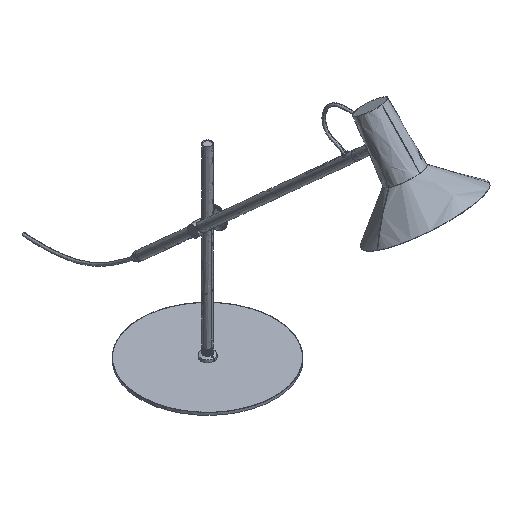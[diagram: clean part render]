
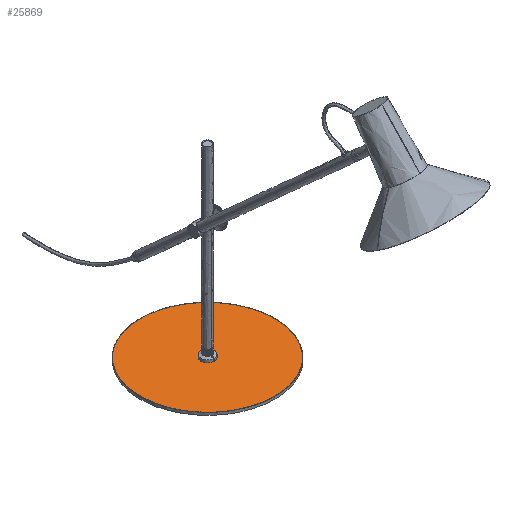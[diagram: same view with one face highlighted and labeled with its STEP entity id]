
A CAD part, isometric view. The second image highlights one B-rep face of the part: STEP entity #25869.
In plain terms, the highlighted free-form (B-spline) face has degree [1, 1] with [2, 2] control points.
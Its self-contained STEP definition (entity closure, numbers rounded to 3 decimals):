
#75 = VERTEX_POINT ( 'NONE', #10144 ) ;
#507 = CARTESIAN_POINT ( 'NONE',  ( 396.577, 3943.91, -700.101 ) ) ;
#652 = VERTEX_POINT ( 'NONE', #12375 ) ;
#1141 = CARTESIAN_POINT ( 'NONE',  ( 394.327, 3946.16, -700.101 ) ) ;
#1953 = EDGE_CURVE ( 'NONE', #14120, #75, #32282, .T. ) ;
#2541 = CARTESIAN_POINT ( 'NONE',  ( 502.407, 3890.51, -700.101 ) ) ;
#2887 = CARTESIAN_POINT ( 'NONE',  ( 502.407, 4015.31, -700.101 ) ) ;
#3250 = VERTEX_POINT ( 'NONE', #1141 ) ;
#3641 = ORIENTED_EDGE ( 'NONE', *, *, #30623, .F. ) ;
#3683 =( BOUNDED_CURVE ( )  B_SPLINE_CURVE ( 2, ( #21739, #24795, #14148 ),
 .UNSPECIFIED., .F., .F. ) 
 B_SPLINE_CURVE_WITH_KNOTS ( ( 3, 3 ),
 ( -130.69, 0. ),
 .UNSPECIFIED. ) 
 CURVE ( )  GEOMETRIC_REPRESENTATION_ITEM ( )  RATIONAL_B_SPLINE_CURVE ( ( 1., 0.866, 1. ) ) 
 REPRESENTATION_ITEM ( '' )  );
#3720 = EDGE_CURVE ( 'NONE', #19972, #652, #28686, .T. ) ;
#3908 =( BOUNDED_CURVE ( )  B_SPLINE_CURVE ( 2, ( #32681, #13621, #24808, #26770, #35369 ),
 .UNSPECIFIED., .F., .F. ) 
 B_SPLINE_CURVE_WITH_KNOTS ( ( 3, 2, 3 ),
 ( 0., 3.534, 7.069 ),
 .UNSPECIFIED. ) 
 CURVE ( )  GEOMETRIC_REPRESENTATION_ITEM ( )  RATIONAL_B_SPLINE_CURVE ( ( 1., 0.707, 1., 0.707, 1. ) ) 
 REPRESENTATION_ITEM ( '' )  );
#4145 = CARTESIAN_POINT ( 'NONE',  ( 392.077, 3959.66, -700.101 ) ) ;
#5836 = ORIENTED_EDGE ( 'NONE', *, *, #23672, .F. ) ;
#5874 = CARTESIAN_POINT ( 'NONE',  ( 466.38, 3828.11, -700.101 ) ) ;
#6155 =( BOUNDED_CURVE ( )  B_SPLINE_CURVE ( 2, ( #8406, #32805, #507, #30108, #21882 ),
 .UNSPECIFIED., .F., .F. ) 
 B_SPLINE_CURVE_WITH_KNOTS ( ( 3, 2, 3 ),
 ( 0., 3.534, 7.069 ),
 .UNSPECIFIED. ) 
 CURVE ( )  GEOMETRIC_REPRESENTATION_ITEM ( )  RATIONAL_B_SPLINE_CURVE ( ( 1., 0.707, 1., 0.707, 1. ) ) 
 REPRESENTATION_ITEM ( '' )  );
#6299 = CARTESIAN_POINT ( 'NONE',  ( 394.327, 3959.66, -700.101 ) ) ;
#6487 = ORIENTED_EDGE ( 'NONE', *, *, #3720, .F. ) ;
#6502 = CARTESIAN_POINT ( 'NONE',  ( 394.327, 3959.66, -700.101 ) ) ;
#7239 = EDGE_LOOP ( 'NONE', ( #23893, #5836, #34765, #33343 ) ) ;
#7608 = CARTESIAN_POINT ( 'NONE',  ( 611.36, 3727.43, -700.101 ) ) ;
#7736 = CARTESIAN_POINT ( 'NONE',  ( 466.38, 4077.71, -700.101 ) ) ;
#8406 = CARTESIAN_POINT ( 'NONE',  ( 394.327, 3941.66, -700.101 ) ) ;
#8614 = VERTEX_POINT ( 'NONE', #2541 ) ;
#8866 = CARTESIAN_POINT ( 'NONE',  ( 394.327, 3959.66, -700.101 ) ) ;
#9163 = CARTESIAN_POINT ( 'NONE',  ( 396.577, 3964.16, -700.101 ) ) ;
#9591 = EDGE_LOOP ( 'NONE', ( #3641, #6487 ) ) ;
#10144 = CARTESIAN_POINT ( 'NONE',  ( 286.247, 4015.31, -700.101 ) ) ;
#10157 = CARTESIAN_POINT ( 'NONE',  ( 250.22, 3952.91, -700.101 ) ) ;
#10742 = CARTESIAN_POINT ( 'NONE',  ( 394.327, 4077.71, -700.101 ) ) ;
#11071 = EDGE_CURVE ( 'NONE', #3250, #16583, #3908, .T. ) ;
#11325 = ORIENTED_EDGE ( 'NONE', *, *, #31583, .F. ) ;
#11818 = CARTESIAN_POINT ( 'NONE',  ( 396.577, 3959.66, -700.101 ) ) ;
#12375 = CARTESIAN_POINT ( 'NONE',  ( 394.327, 3964.16, -700.101 ) ) ;
#12491 = CARTESIAN_POINT ( 'NONE',  ( 392.077, 3961.91, -700.101 ) ) ;
#13621 = CARTESIAN_POINT ( 'NONE',  ( 392.077, 3946.16, -700.101 ) ) ;
#14075 =( BOUNDED_CURVE ( )  B_SPLINE_CURVE ( 2, ( #33121, #5874, #19647 ),
 .UNSPECIFIED., .F., .F. ) 
 B_SPLINE_CURVE_WITH_KNOTS ( ( 3, 3 ),
 ( -130.69, 0. ),
 .UNSPECIFIED. ) 
 CURVE ( )  GEOMETRIC_REPRESENTATION_ITEM ( )  RATIONAL_B_SPLINE_CURVE ( ( 1., 0.866, 1. ) ) 
 REPRESENTATION_ITEM ( '' )  );
#14120 = VERTEX_POINT ( 'NONE', #33773 ) ;
#14148 = CARTESIAN_POINT ( 'NONE',  ( 394.327, 4077.71, -700.101 ) ) ;
#15299 = FACE_OUTER_BOUND ( 'NONE', #7239, .T. ) ;
#15643 = CARTESIAN_POINT ( 'NONE',  ( 611.36, 4178.389, -700.101 ) ) ;
#15772 = CARTESIAN_POINT ( 'NONE',  ( 538.433, 3952.91, -700.101 ) ) ;
#16583 = VERTEX_POINT ( 'NONE', #31952 ) ;
#17197 = CARTESIAN_POINT ( 'NONE',  ( 394.327, 3964.16, -700.101 ) ) ;
#17906 = CARTESIAN_POINT ( 'NONE',  ( 392.077, 3964.16, -700.101 ) ) ;
#18265 =( BOUNDED_CURVE ( )  B_SPLINE_CURVE ( 2, ( #17197, #17906, #12491, #4145, #6299 ),
 .UNSPECIFIED., .F., .F. ) 
 B_SPLINE_CURVE_WITH_KNOTS ( ( 3, 2, 3 ),
 ( 0., 3.534, 7.069 ),
 .UNSPECIFIED. ) 
 CURVE ( )  GEOMETRIC_REPRESENTATION_ITEM ( )  RATIONAL_B_SPLINE_CURVE ( ( 1., 0.707, 1., 0.707, 1. ) ) 
 REPRESENTATION_ITEM ( '' )  );
#18711 = CARTESIAN_POINT ( 'NONE',  ( 177.294, 3727.43, -700.101 ) ) ;
#18995 =( BOUNDED_CURVE ( )  B_SPLINE_CURVE ( 2, ( #10742, #7736, #2887, #15772, #32477 ),
 .UNSPECIFIED., .F., .F. ) 
 B_SPLINE_CURVE_WITH_KNOTS ( ( 3, 2, 3 ),
 ( 0., 130.69, 261.381 ),
 .UNSPECIFIED. ) 
 CURVE ( )  GEOMETRIC_REPRESENTATION_ITEM ( )  RATIONAL_B_SPLINE_CURVE ( ( 1., 0.866, 1., 0.866, 1. ) ) 
 REPRESENTATION_ITEM ( '' )  );
#19647 = CARTESIAN_POINT ( 'NONE',  ( 394.327, 3828.11, -700.101 ) ) ;
#19972 = VERTEX_POINT ( 'NONE', #8866 ) ;
#20106 = CARTESIAN_POINT ( 'NONE',  ( 394.327, 3964.16, -700.101 ) ) ;
#21739 = CARTESIAN_POINT ( 'NONE',  ( 286.247, 4015.31, -700.101 ) ) ;
#21882 = CARTESIAN_POINT ( 'NONE',  ( 394.327, 3946.16, -700.101 ) ) ;
#21960 = ORIENTED_EDGE ( 'NONE', *, *, #11071, .F. ) ;
#22819 = CARTESIAN_POINT ( 'NONE',  ( 396.577, 3961.91, -700.101 ) ) ;
#23141 = B_SPLINE_SURFACE_WITH_KNOTS ( 'NONE', 1, 1, ( 
 ( #7608, #18711 ),
 ( #15643, #23778 ) ),
 .UNSPECIFIED., .F., .F., .F.,
 ( 2, 2 ),
 ( 2, 2 ),
 ( -225.479, 225.479 ),
 ( -217.033, 217.033 ),
 .UNSPECIFIED. ) ;
#23604 = FACE_BOUND ( 'NONE', #34498, .T. ) ;
#23672 = EDGE_CURVE ( 'NONE', #75, #32732, #3683, .T. ) ;
#23778 = CARTESIAN_POINT ( 'NONE',  ( 177.294, 4178.389, -700.101 ) ) ;
#23893 = ORIENTED_EDGE ( 'NONE', *, *, #33339, .F. ) ;
#24376 = CARTESIAN_POINT ( 'NONE',  ( 322.273, 3828.11, -700.101 ) ) ;
#24795 = CARTESIAN_POINT ( 'NONE',  ( 322.273, 4077.71, -700.101 ) ) ;
#24808 = CARTESIAN_POINT ( 'NONE',  ( 392.077, 3943.91, -700.101 ) ) ;
#25869 = ADVANCED_FACE ( 'NONE', ( #23604, #26632, #15299 ), #23141, .T. ) ;
#26632 = FACE_BOUND ( 'NONE', #9591, .T. ) ;
#26734 = EDGE_CURVE ( 'NONE', #8614, #14120, #14075, .T. ) ;
#26770 = CARTESIAN_POINT ( 'NONE',  ( 392.077, 3941.66, -700.101 ) ) ;
#27051 = CARTESIAN_POINT ( 'NONE',  ( 394.327, 3828.11, -700.101 ) ) ;
#28335 = CARTESIAN_POINT ( 'NONE',  ( 394.327, 4077.71, -700.101 ) ) ;
#28686 =( BOUNDED_CURVE ( )  B_SPLINE_CURVE ( 2, ( #6502, #11818, #22819, #9163, #20106 ),
 .UNSPECIFIED., .F., .T. ) 
 B_SPLINE_CURVE_WITH_KNOTS ( ( 3, 2, 3 ),
 ( 0., 3.534, 7.069 ),
 .UNSPECIFIED. ) 
 CURVE ( )  GEOMETRIC_REPRESENTATION_ITEM ( )  RATIONAL_B_SPLINE_CURVE ( ( 1., 0.707, 1., 0.707, 1. ) ) 
 REPRESENTATION_ITEM ( '' )  );
#30108 = CARTESIAN_POINT ( 'NONE',  ( 396.577, 3946.16, -700.101 ) ) ;
#30623 = EDGE_CURVE ( 'NONE', #652, #19972, #18265, .T. ) ;
#31583 = EDGE_CURVE ( 'NONE', #16583, #3250, #6155, .T. ) ;
#31952 = CARTESIAN_POINT ( 'NONE',  ( 394.327, 3941.66, -700.101 ) ) ;
#32282 =( BOUNDED_CURVE ( )  B_SPLINE_CURVE ( 2, ( #27051, #24376, #35114, #10157, #35294 ),
 .UNSPECIFIED., .F., .T. ) 
 B_SPLINE_CURVE_WITH_KNOTS ( ( 3, 2, 3 ),
 ( -261.381, -130.69, 0. ),
 .UNSPECIFIED. ) 
 CURVE ( )  GEOMETRIC_REPRESENTATION_ITEM ( )  RATIONAL_B_SPLINE_CURVE ( ( 1., 0.866, 1., 0.866, 1. ) ) 
 REPRESENTATION_ITEM ( '' )  );
#32477 = CARTESIAN_POINT ( 'NONE',  ( 502.407, 3890.51, -700.101 ) ) ;
#32681 = CARTESIAN_POINT ( 'NONE',  ( 394.327, 3946.16, -700.101 ) ) ;
#32732 = VERTEX_POINT ( 'NONE', #28335 ) ;
#32805 = CARTESIAN_POINT ( 'NONE',  ( 396.577, 3941.66, -700.101 ) ) ;
#33121 = CARTESIAN_POINT ( 'NONE',  ( 502.407, 3890.51, -700.101 ) ) ;
#33339 = EDGE_CURVE ( 'NONE', #32732, #8614, #18995, .T. ) ;
#33343 = ORIENTED_EDGE ( 'NONE', *, *, #26734, .F. ) ;
#33773 = CARTESIAN_POINT ( 'NONE',  ( 394.327, 3828.11, -700.101 ) ) ;
#34498 = EDGE_LOOP ( 'NONE', ( #21960, #11325 ) ) ;
#34765 = ORIENTED_EDGE ( 'NONE', *, *, #1953, .F. ) ;
#35114 = CARTESIAN_POINT ( 'NONE',  ( 286.247, 3890.51, -700.101 ) ) ;
#35294 = CARTESIAN_POINT ( 'NONE',  ( 286.247, 4015.31, -700.101 ) ) ;
#35369 = CARTESIAN_POINT ( 'NONE',  ( 394.327, 3941.66, -700.101 ) ) ;
